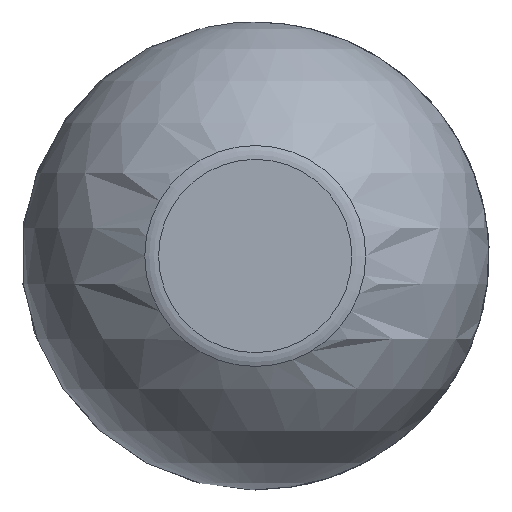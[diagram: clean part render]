
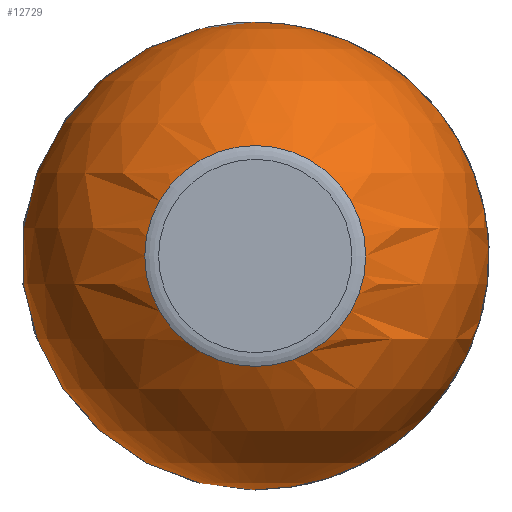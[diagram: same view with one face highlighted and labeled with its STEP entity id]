
A CAD part, left-side view. The second image highlights one B-rep face of the part: STEP entity #12729.
In plain terms, the highlighted spherical face has radius 12.179 mm.
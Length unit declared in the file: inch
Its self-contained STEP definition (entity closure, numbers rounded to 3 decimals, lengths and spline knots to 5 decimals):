
#3000=SPHERICAL_SURFACE('',#13526,0.4795);
#3443=FACE_BOUND('',#4287,.T.);
#3444=FACE_BOUND('',#4288,.T.);
#4287=EDGE_LOOP('',(#8769));
#4288=EDGE_LOOP('',(#8770));
#5117=CIRCLE('',#13518,0.26464);
#5120=CIRCLE('',#13525,0.2265);
#5457=VERTEX_POINT('',#17099);
#5460=VERTEX_POINT('',#17109);
#6783=EDGE_CURVE('',#5457,#5457,#5117,.T.);
#6786=EDGE_CURVE('',#5460,#5460,#5120,.T.);
#8769=ORIENTED_EDGE('',*,*,#6783,.T.);
#8770=ORIENTED_EDGE('',*,*,#6786,.T.);
#12729=ADVANCED_FACE('',(#3443,#3444),#3000,.T.);
#13518=AXIS2_PLACEMENT_3D('',#17100,#14395,#14396);
#13525=AXIS2_PLACEMENT_3D('',#17110,#14409,#14410);
#13526=AXIS2_PLACEMENT_3D('',#17111,#14411,#14412);
#14395=DIRECTION('center_axis',(-1.,0.,0.));
#14396=DIRECTION('ref_axis',(0.,0.,-1.));
#14409=DIRECTION('center_axis',(1.,0.,0.));
#14410=DIRECTION('ref_axis',(0.,0.,-1.));
#14411=DIRECTION('center_axis',(0.,0.,1.));
#14412=DIRECTION('ref_axis',(1.,0.,0.));
#17099=CARTESIAN_POINT('',(-0.46231,0.14868,0.));
#17100=CARTESIAN_POINT('Origin',(-0.46231,0.41332,0.));
#17109=CARTESIAN_POINT('',(-1.2848,0.63982,0.));
#17110=CARTESIAN_POINT('Origin',(-1.2848,0.41332,0.));
#17111=CARTESIAN_POINT('Origin',(-0.86217,0.41332,0.));
